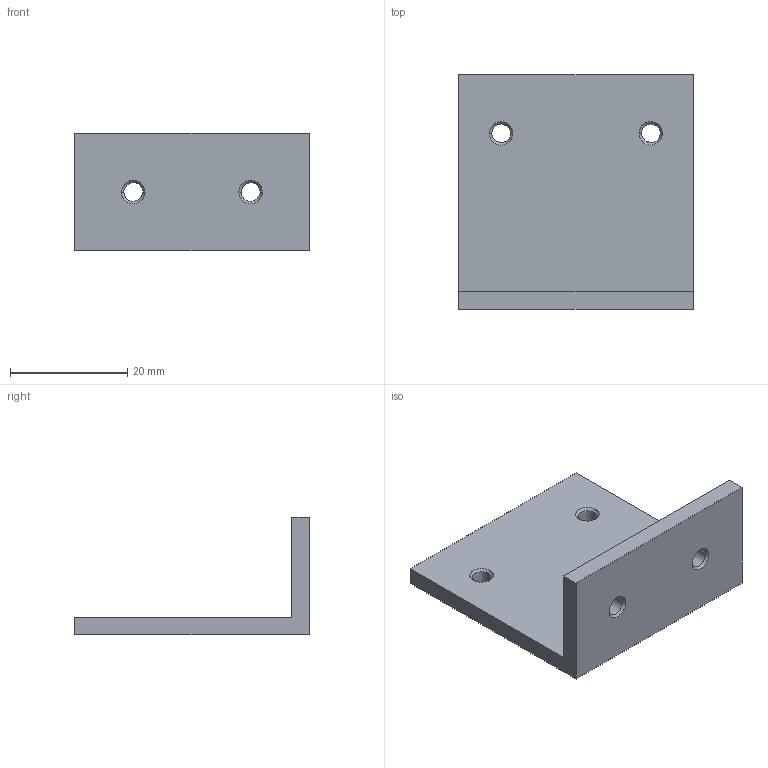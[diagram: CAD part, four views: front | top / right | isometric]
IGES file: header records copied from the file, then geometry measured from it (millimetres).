
Start section:  PTC IGES file: 021009_cp-070.igs
Global section: file name: 021009_cp-070.igs; native system: Pro/ENGINEER by Parametric Technology Corporation; preprocessor: 2004090; author: KAIHATSU01; organization: Unknown; date: 061017.095302; units: millimetre
Bounding box: 40 x 40 x 20 mm (x, y, z)
Volume: 6736.4 mm3; surface area: 5181.2 mm2
Topology: 1 solids, 1 shells, 32 faces, 74 edges, 44 vertices
Faces by surface type: bspline 32
